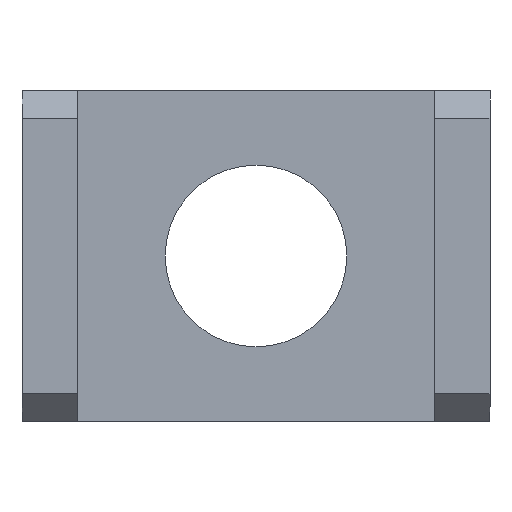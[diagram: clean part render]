
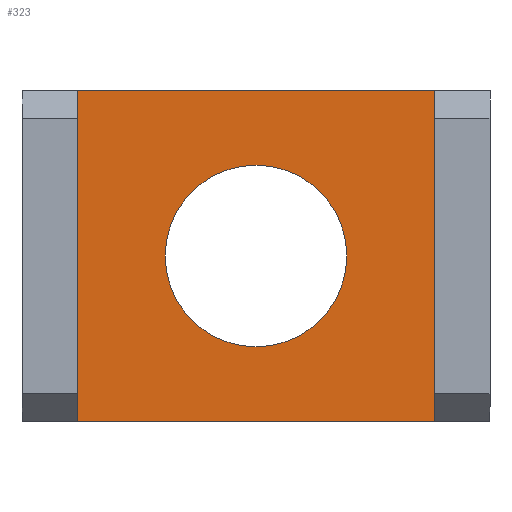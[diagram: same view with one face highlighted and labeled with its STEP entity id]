
A CAD part, front view. The second image highlights one B-rep face of the part: STEP entity #323.
In plain terms, the highlighted planar face has unit normal (0, -1, 0).
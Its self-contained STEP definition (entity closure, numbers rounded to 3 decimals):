
#3 = VECTOR ( 'NONE', #177, 1000. ) ;
#16 = VECTOR ( 'NONE', #307, 1000. ) ;
#29 = ORIENTED_EDGE ( 'NONE', *, *, #292, .T. ) ;
#39 = EDGE_CURVE ( 'NONE', #379, #335, #311, .T. ) ;
#40 = VERTEX_POINT ( 'NONE', #237 ) ;
#42 = VECTOR ( 'NONE', #104, 1000. ) ;
#75 = FACE_OUTER_BOUND ( 'NONE', #149, .T. ) ;
#93 = DIRECTION ( 'NONE',  ( 0., 0., -1. ) ) ;
#104 = DIRECTION ( 'NONE',  ( 0., 0., -1. ) ) ;
#137 = EDGE_LOOP ( 'NONE', ( #272, #29 ) ) ;
#149 = EDGE_LOOP ( 'NONE', ( #153, #457, #326, #389 ) ) ;
#152 = VECTOR ( 'NONE', #93, 1000. ) ;
#153 = ORIENTED_EDGE ( 'NONE', *, *, #461, .T. ) ;
#165 = CARTESIAN_POINT ( 'NONE',  ( 6.5, -2., 6. ) ) ;
#177 = DIRECTION ( 'NONE',  ( 1., 0., 0. ) ) ;
#179 = CARTESIAN_POINT ( 'NONE',  ( -6.5, -2., 6. ) ) ;
#207 = DIRECTION ( 'NONE',  ( 0., 1., 0. ) ) ;
#219 = VERTEX_POINT ( 'NONE', #179 ) ;
#225 = EDGE_CURVE ( 'NONE', #489, #40, #363, .T. ) ;
#237 = CARTESIAN_POINT ( 'NONE',  ( 6.5, -2., -6. ) ) ;
#238 = VERTEX_POINT ( 'NONE', #428 ) ;
#242 = AXIS2_PLACEMENT_3D ( 'NONE', #165, #207, #460 ) ;
#244 = CARTESIAN_POINT ( 'NONE',  ( 0., -2., 0. ) ) ;
#254 = DIRECTION ( 'NONE',  ( 0., 1., 0. ) ) ;
#270 = EDGE_CURVE ( 'NONE', #219, #489, #497, .T. ) ;
#272 = ORIENTED_EDGE ( 'NONE', *, *, #39, .T. ) ;
#280 = CARTESIAN_POINT ( 'NONE',  ( 3.3, -2., 0. ) ) ;
#292 = EDGE_CURVE ( 'NONE', #335, #379, #382, .T. ) ;
#307 = DIRECTION ( 'NONE',  ( 1., 0., 0. ) ) ;
#311 = CIRCLE ( 'NONE', #329, 3.3 ) ;
#314 = EDGE_CURVE ( 'NONE', #219, #238, #395, .T. ) ;
#321 = DIRECTION ( 'NONE',  ( 0., 1., 0. ) ) ;
#323 = ADVANCED_FACE ( 'NONE', ( #340, #75 ), #415, .F. ) ;
#326 = ORIENTED_EDGE ( 'NONE', *, *, #270, .F. ) ;
#329 = AXIS2_PLACEMENT_3D ( 'NONE', #244, #321, #365 ) ;
#335 = VERTEX_POINT ( 'NONE', #280 ) ;
#339 = CARTESIAN_POINT ( 'NONE',  ( -6.5, -2., 6. ) ) ;
#340 = FACE_BOUND ( 'NONE', #137, .T. ) ;
#355 = AXIS2_PLACEMENT_3D ( 'NONE', #465, #254, #510 ) ;
#363 = LINE ( 'NONE', #396, #42 ) ;
#365 = DIRECTION ( 'NONE',  ( -1., 0., 0. ) ) ;
#379 = VERTEX_POINT ( 'NONE', #418 ) ;
#382 = CIRCLE ( 'NONE', #355, 3.3 ) ;
#388 = LINE ( 'NONE', #476, #16 ) ;
#389 = ORIENTED_EDGE ( 'NONE', *, *, #314, .T. ) ;
#394 = CARTESIAN_POINT ( 'NONE',  ( 6.5, -2., 6. ) ) ;
#395 = LINE ( 'NONE', #339, #152 ) ;
#396 = CARTESIAN_POINT ( 'NONE',  ( 6.5, -2., 6. ) ) ;
#415 = PLANE ( 'NONE',  #242 ) ;
#418 = CARTESIAN_POINT ( 'NONE',  ( -3.3, -2., 0. ) ) ;
#425 = CARTESIAN_POINT ( 'NONE',  ( 6.5, -2., 6. ) ) ;
#428 = CARTESIAN_POINT ( 'NONE',  ( -6.5, -2., -6. ) ) ;
#457 = ORIENTED_EDGE ( 'NONE', *, *, #225, .F. ) ;
#460 = DIRECTION ( 'NONE',  ( -1., 0., 0. ) ) ;
#461 = EDGE_CURVE ( 'NONE', #238, #40, #388, .T. ) ;
#465 = CARTESIAN_POINT ( 'NONE',  ( 0., -2., 0. ) ) ;
#476 = CARTESIAN_POINT ( 'NONE',  ( 6.5, -2., -6. ) ) ;
#489 = VERTEX_POINT ( 'NONE', #394 ) ;
#497 = LINE ( 'NONE', #425, #3 ) ;
#510 = DIRECTION ( 'NONE',  ( -1., 0., 0. ) ) ;
